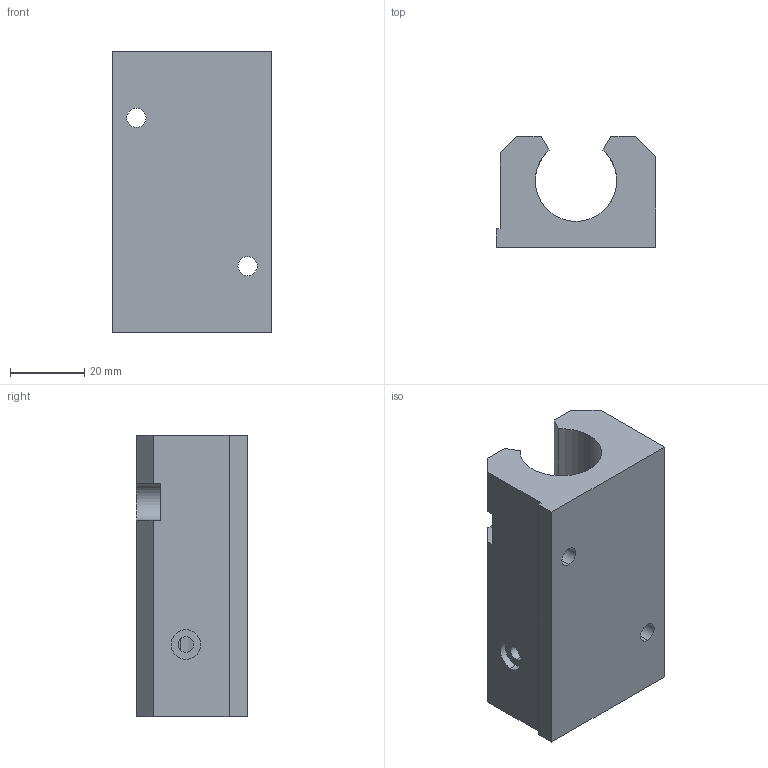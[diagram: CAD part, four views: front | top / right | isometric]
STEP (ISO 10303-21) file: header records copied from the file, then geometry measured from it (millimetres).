
FILE_DESCRIPTION (( 'STEP AP214' ), '1' );
FILE_NAME ('KTGO87-12.step', '2020-03-04T13:27:49', ( '' ), ( '' ), 'SwSTEP 2.0', 'SolidWorks 2019', '' );
FILE_SCHEMA (( 'AUTOMOTIVE_DESIGN' ));
Length unit declared in the file: millimetre
Products named in the file (1): KTGO87-12
Bounding box: 43 x 30 x 76 mm (x, y, z)
Volume: 59691.9 mm3; surface area: 17010 mm2
Topology: 1 solids, 1 shells, 46 faces, 128 edges, 84 vertices
Faces by surface type: plane 23, cylinder 21, cone 2
Entity records: 1802 total; most frequent: CARTESIAN_POINT 441, ORIENTED_EDGE 256, DIRECTION 248, EDGE_CURVE 128, VERTEX_POINT 84, AXIS2_PLACEMENT_3D 83, LINE 82, VECTOR 82
